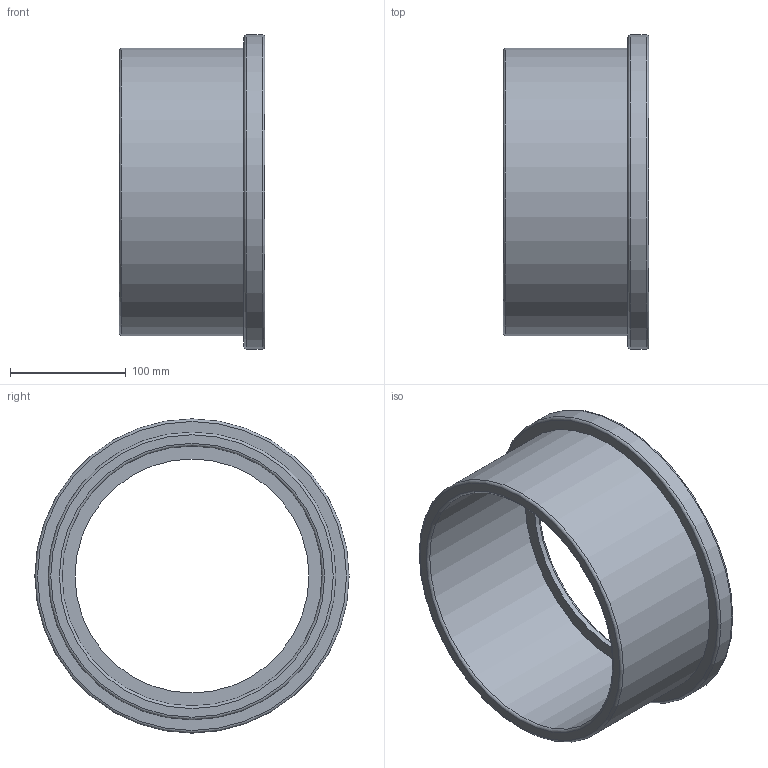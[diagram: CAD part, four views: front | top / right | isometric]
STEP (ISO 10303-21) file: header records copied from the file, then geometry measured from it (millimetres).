
FILE_DESCRIPTION(/* description */ ('PLASSON FLANGE FLAT AD.-CEM 225'),/* implementation_level */ '2;1');
FILE_NAME(/* name */ 'C:\Dropbox\KIMPROJECTS-Inventor\99-16-3568-Processing\PVC Catalog 2017\26_09_18\055100\055100225.ipt.stp',/* time_stamp */ '2018-09-27T11:51:04+03:00',/* author */ ('KIM'),/* organization */ (''),/* preprocessor_version */ 'ST-DEVELOPER v15.6',/* originating_system */ 'Autodesk Inventor 2015',/* authorisation */ '');
FILE_SCHEMA (('AUTOMOTIVE_DESIGN { 1 0 10303 214 3 1 1 }'));
Length unit declared in the file: millimetre
Products named in the file (1): 055100225
Bounding box: 126 x 272 x 272 mm (x, y, z)
Volume: 1343896.1 mm3; surface area: 236530.5 mm2
Topology: 1 solids, 1 shells, 13 faces, 22 edges, 13 vertices
Faces by surface type: torus 5, cylinder 4, plane 4
Full cylindrical faces by diameter (mm): 202.5 x1, 225 x1, 249 x1, 272 x1
Entity records: 292 total; most frequent: DIRECTION 54, CARTESIAN_POINT 40, AXIS2_PLACEMENT_3D 27, EDGE_LOOP 26, ORIENTED_EDGE 26, FACE_BOUND 13, FACE_OUTER_BOUND 13, CIRCLE 13
